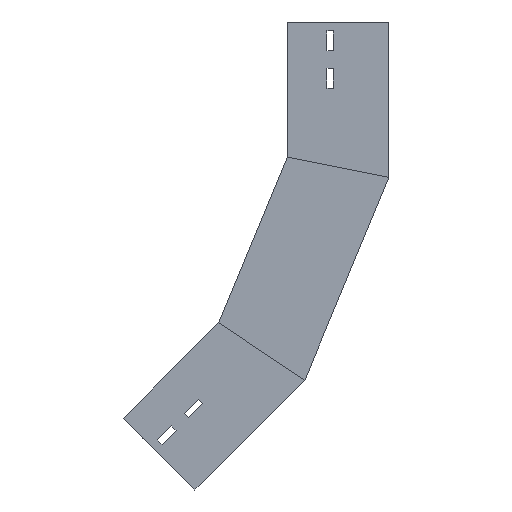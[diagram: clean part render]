
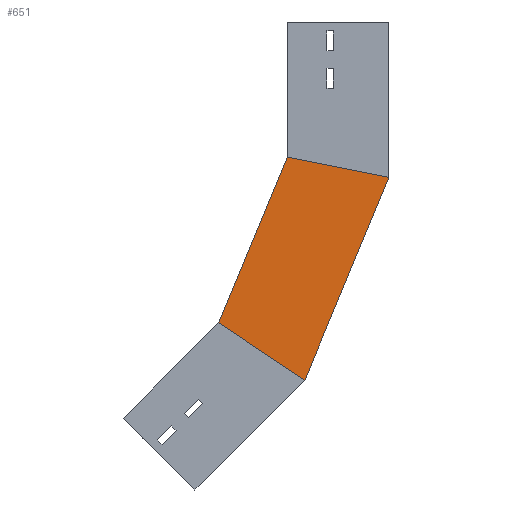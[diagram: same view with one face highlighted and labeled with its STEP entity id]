
A CAD part, left-side view. The second image highlights one B-rep face of the part: STEP entity #651.
In plain terms, the highlighted planar face has unit normal (-1, 0, 0) as drawn and (1, 0, 0) by its records, which use the part's own axes.
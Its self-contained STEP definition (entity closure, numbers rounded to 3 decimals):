
#4 = DIRECTION ( 'NONE',  ( 0., -0.981, -0.195 ) ) ;
#18 = ORIENTED_EDGE ( 'NONE', *, *, #873, .T. ) ;
#161 = CARTESIAN_POINT ( 'NONE',  ( 0., 0., -172.1 ) ) ;
#169 = EDGE_CURVE ( 'NONE', #488, #1446, #760, .T. ) ;
#314 = CARTESIAN_POINT ( 'NONE',  ( 0., 112.5, -149.722 ) ) ;
#392 = DIRECTION ( 'NONE',  ( 0., 0., 1. ) ) ;
#440 = DIRECTION ( 'NONE',  ( 0., 0.383, -0.924 ) ) ;
#466 = LINE ( 'NONE', #1047, #792 ) ;
#488 = VERTEX_POINT ( 'NONE', #570 ) ;
#500 = EDGE_CURVE ( 'NONE', #1417, #1446, #1378, .T. ) ;
#539 = DIRECTION ( 'NONE',  ( 0., 0.383, -0.924 ) ) ;
#570 = CARTESIAN_POINT ( 'NONE',  ( 0., 0., -172.1 ) ) ;
#596 = ORIENTED_EDGE ( 'NONE', *, *, #169, .T. ) ;
#598 = VECTOR ( 'NONE', #440, 1000. ) ;
#608 = PLANE ( 'NONE',  #721 ) ;
#651 = ADVANCED_FACE ( 'NONE', ( #1325 ), #608, .F. ) ;
#686 = EDGE_CURVE ( 'NONE', #1260, #1417, #883, .T. ) ;
#721 = AXIS2_PLACEMENT_3D ( 'NONE', #1307, #976, #392 ) ;
#730 = CARTESIAN_POINT ( 'NONE',  ( 0., 188.403, -332.969 ) ) ;
#760 = LINE ( 'NONE', #161, #796 ) ;
#792 = VECTOR ( 'NONE', #4, 1000. ) ;
#796 = VECTOR ( 'NONE', #539, 1000. ) ;
#873 = EDGE_CURVE ( 'NONE', #1260, #488, #466, .T. ) ;
#883 = LINE ( 'NONE', #1016, #598 ) ;
#902 = ORIENTED_EDGE ( 'NONE', *, *, #686, .F. ) ;
#921 = ORIENTED_EDGE ( 'NONE', *, *, #500, .F. ) ;
#976 = DIRECTION ( 'NONE',  ( -1., 0., 0. ) ) ;
#1016 = CARTESIAN_POINT ( 'NONE',  ( 0., 103.936, -129.048 ) ) ;
#1047 = CARTESIAN_POINT ( 'NONE',  ( 0., 32.93, -165.55 ) ) ;
#1058 = CARTESIAN_POINT ( 'NONE',  ( 0., 132.464, -370.346 ) ) ;
#1255 = DIRECTION ( 'NONE',  ( 0., -0.831, -0.556 ) ) ;
#1260 = VERTEX_POINT ( 'NONE', #314 ) ;
#1285 = CARTESIAN_POINT ( 'NONE',  ( 0., 93.03, -396.695 ) ) ;
#1307 = CARTESIAN_POINT ( 'NONE',  ( 0., 0., -172.1 ) ) ;
#1318 = VECTOR ( 'NONE', #1255, 1000. ) ;
#1325 = FACE_OUTER_BOUND ( 'NONE', #1337, .T. ) ;
#1337 = EDGE_LOOP ( 'NONE', ( #902, #18, #596, #921 ) ) ;
#1378 = LINE ( 'NONE', #1058, #1318 ) ;
#1417 = VERTEX_POINT ( 'NONE', #730 ) ;
#1446 = VERTEX_POINT ( 'NONE', #1285 ) ;
